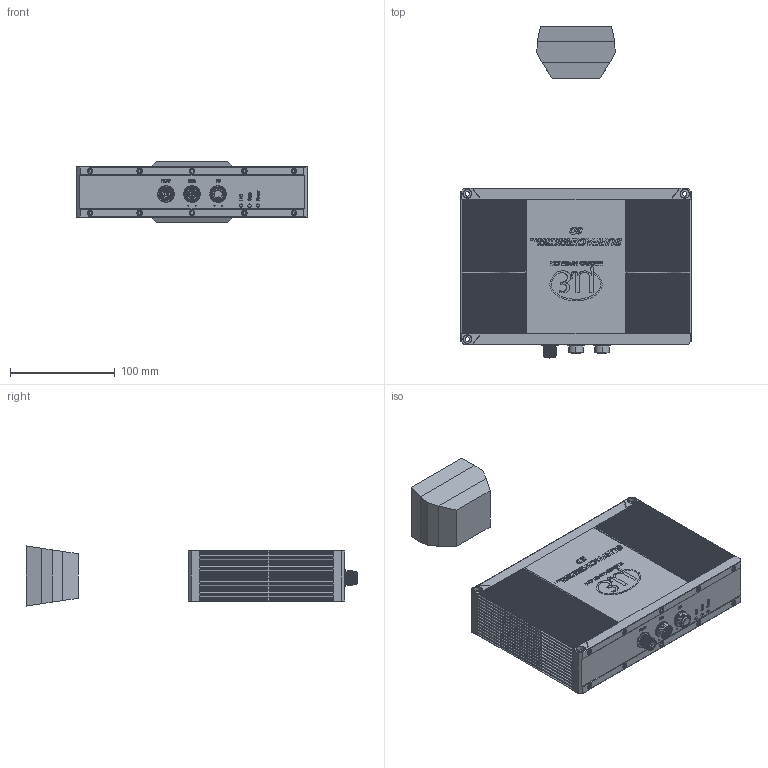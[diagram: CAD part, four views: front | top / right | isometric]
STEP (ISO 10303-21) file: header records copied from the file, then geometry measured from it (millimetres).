
FILE_DESCRIPTION((''),'2;1');
FILE_NAME('0000411226_ASM','2021-06-15T11:44:19',('pdmservice'),(''),'CREO PARAMETRIC BY PTC INC, 2018420','CREO PARAMETRIC BY PTC INC, 2018420','');
FILE_SCHEMA(('AUTOMOTIVE_DESIGN { 1 0 10303 214 1 1 1 1 }'));
Products named in the file (4): 0000411232_PRT; 0000411235_PRT; 0000411240_PRT; 0000411226_ASM
Assembly tree (3 placements, depth 2):
  0000411226_ASM
    0000411232_PRT
    0000411235_PRT
    0000411240_PRT
Bounding box: 220 x 317.5 x 57.5 mm (x, y, z)
Volume: 1683977.1 mm3; surface area: 196916.6 mm2
Topology: 5 solids, 9 shells, 4513 faces, 11999 edges, 7768 vertices
Faces by surface type: plane 1943, cylinder 1543, extrusion 753, torus 127, cone 102, bspline 35, sphere 10
Entity records: 203777 total; most frequent: CARTESIAN_POINT 69048, ORIENTED_EDGE 23994, DIRECTION 22128, EDGE_CURVE 11997, VERTEX_POINT 7768, AXIS2_PLACEMENT_3D 7538, VECTOR 7052, LINE 6299
